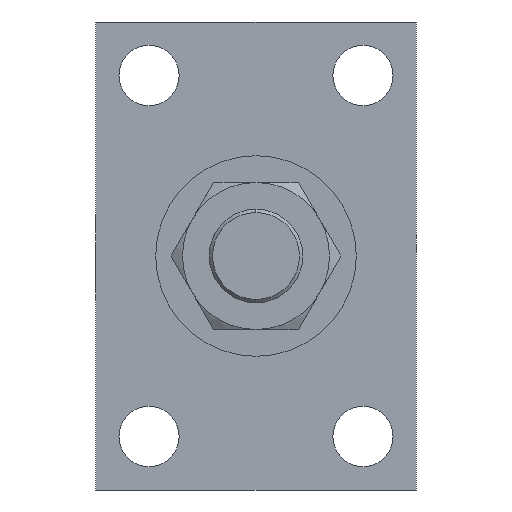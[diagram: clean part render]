
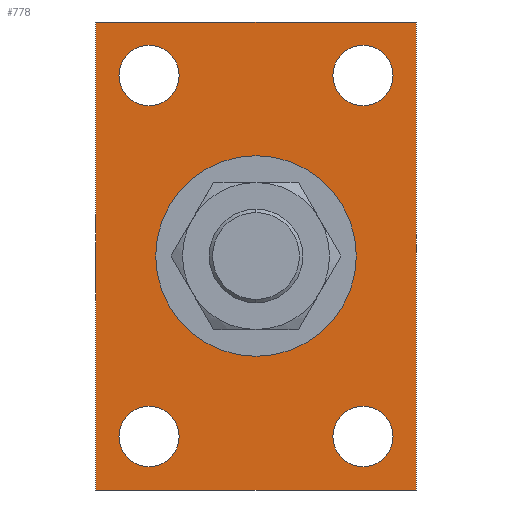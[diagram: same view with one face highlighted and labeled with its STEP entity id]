
A CAD part, left-side view. The second image highlights one B-rep face of the part: STEP entity #778.
In plain terms, the highlighted planar face has unit normal (-1, 0, 0).
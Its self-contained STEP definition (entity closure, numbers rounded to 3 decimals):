
#1 = CIRCLE ( 'NONE', #2101, 4.5 ) ;
#45 = EDGE_CURVE ( 'NONE', #2834, #2792, #2802, .T. ) ;
#47 = VERTEX_POINT ( 'NONE', #2020 ) ;
#62 = CARTESIAN_POINT ( 'NONE',  ( -37., -16., 27. ) ) ;
#89 = ORIENTED_EDGE ( 'NONE', *, *, #193, .F. ) ;
#96 = EDGE_CURVE ( 'NONE', #2880, #1566, #3024, .T. ) ;
#107 = AXIS2_PLACEMENT_3D ( 'NONE', #694, #158, #550 ) ;
#121 = CIRCLE ( 'NONE', #1545, 4.5 ) ;
#147 = ORIENTED_EDGE ( 'NONE', *, *, #796, .F. ) ;
#158 = DIRECTION ( 'NONE',  ( 1., 0., 0. ) ) ;
#187 = ORIENTED_EDGE ( 'NONE', *, *, #278, .F. ) ;
#193 = EDGE_CURVE ( 'NONE', #2003, #2469, #2749, .T. ) ;
#217 = DIRECTION ( 'NONE',  ( 0., 0., -1. ) ) ;
#227 = DIRECTION ( 'NONE',  ( 0., 0., 1. ) ) ;
#255 = EDGE_CURVE ( 'NONE', #1103, #1009, #2293, .T. ) ;
#264 = CARTESIAN_POINT ( 'NONE',  ( -37., 16., 27. ) ) ;
#278 = EDGE_CURVE ( 'NONE', #2469, #2003, #1, .T. ) ;
#299 = EDGE_CURVE ( 'NONE', #2792, #2834, #121, .T. ) ;
#310 = CIRCLE ( 'NONE', #107, 15. ) ;
#311 = VERTEX_POINT ( 'NONE', #1005 ) ;
#369 = FACE_BOUND ( 'NONE', #2487, .T. ) ;
#371 = DIRECTION ( 'NONE',  ( -1., 0., 0. ) ) ;
#372 = CARTESIAN_POINT ( 'NONE',  ( -37., 0., 0. ) ) ;
#442 = AXIS2_PLACEMENT_3D ( 'NONE', #518, #2553, #806 ) ;
#460 = FACE_OUTER_BOUND ( 'NONE', #648, .T. ) ;
#464 = DIRECTION ( 'NONE',  ( 0., 0., 1. ) ) ;
#468 = VECTOR ( 'NONE', #1630, 1000. ) ;
#502 = ORIENTED_EDGE ( 'NONE', *, *, #1863, .F. ) ;
#518 = CARTESIAN_POINT ( 'NONE',  ( -37., 0., 0. ) ) ;
#550 = DIRECTION ( 'NONE',  ( 0., 0., 1. ) ) ;
#593 = CARTESIAN_POINT ( 'NONE',  ( -37., -16., -31.5 ) ) ;
#594 = EDGE_LOOP ( 'NONE', ( #1896, #1342 ) ) ;
#602 = VECTOR ( 'NONE', #2263, 1000. ) ;
#607 = EDGE_CURVE ( 'NONE', #47, #311, #310, .T. ) ;
#616 = CIRCLE ( 'NONE', #1122, 4.5 ) ;
#648 = EDGE_LOOP ( 'NONE', ( #888, #147, #1377, #689 ) ) ;
#653 = VERTEX_POINT ( 'NONE', #701 ) ;
#668 = CARTESIAN_POINT ( 'NONE',  ( -37., -24., -35. ) ) ;
#680 = ORIENTED_EDGE ( 'NONE', *, *, #45, .F. ) ;
#689 = ORIENTED_EDGE ( 'NONE', *, *, #1801, .F. ) ;
#694 = CARTESIAN_POINT ( 'NONE',  ( -37., 0., 0. ) ) ;
#701 = CARTESIAN_POINT ( 'NONE',  ( -37., -24., -35. ) ) ;
#746 = CARTESIAN_POINT ( 'NONE',  ( -37., 16., -27. ) ) ;
#778 = ADVANCED_FACE ( 'NONE', ( #1010, #1919, #912, #2649, #460, #369 ), #1397, .T. ) ;
#796 = EDGE_CURVE ( 'NONE', #2830, #1103, #1547, .T. ) ;
#806 = DIRECTION ( 'NONE',  ( 0., 0., 1. ) ) ;
#815 = CARTESIAN_POINT ( 'NONE',  ( -37., -16., -27. ) ) ;
#820 = CARTESIAN_POINT ( 'NONE',  ( -37., -16., 27. ) ) ;
#827 = CARTESIAN_POINT ( 'NONE',  ( -37., -24., 35. ) ) ;
#861 = DIRECTION ( 'NONE',  ( -1., 0., 0. ) ) ;
#879 = CARTESIAN_POINT ( 'NONE',  ( -37., -16., -22.5 ) ) ;
#888 = ORIENTED_EDGE ( 'NONE', *, *, #255, .F. ) ;
#907 = CARTESIAN_POINT ( 'NONE',  ( -37., 24., -35. ) ) ;
#912 = FACE_BOUND ( 'NONE', #1999, .T. ) ;
#978 = DIRECTION ( 'NONE',  ( -1., 0., 0. ) ) ;
#1005 = CARTESIAN_POINT ( 'NONE',  ( -37., 0., 15. ) ) ;
#1009 = VERTEX_POINT ( 'NONE', #827 ) ;
#1010 = FACE_BOUND ( 'NONE', #1045, .T. ) ;
#1011 = DIRECTION ( 'NONE',  ( 0., 0., 1. ) ) ;
#1045 = EDGE_LOOP ( 'NONE', ( #187, #89 ) ) ;
#1049 = CARTESIAN_POINT ( 'NONE',  ( -37., 16., 22.5 ) ) ;
#1092 = AXIS2_PLACEMENT_3D ( 'NONE', #820, #2769, #1137 ) ;
#1102 = VECTOR ( 'NONE', #1826, 1000. ) ;
#1103 = VERTEX_POINT ( 'NONE', #1512 ) ;
#1109 = AXIS2_PLACEMENT_3D ( 'NONE', #1676, #371, #1862 ) ;
#1122 = AXIS2_PLACEMENT_3D ( 'NONE', #2613, #1316, #3009 ) ;
#1136 = CIRCLE ( 'NONE', #2398, 4.5 ) ;
#1137 = DIRECTION ( 'NONE',  ( 0., 0., 1. ) ) ;
#1190 = ORIENTED_EDGE ( 'NONE', *, *, #607, .T. ) ;
#1249 = CARTESIAN_POINT ( 'NONE',  ( -37., -24., 35. ) ) ;
#1290 = EDGE_CURVE ( 'NONE', #1566, #2880, #616, .T. ) ;
#1304 = EDGE_CURVE ( 'NONE', #1380, #2051, #2153, .T. ) ;
#1310 = VECTOR ( 'NONE', #217, 1000. ) ;
#1316 = DIRECTION ( 'NONE',  ( -1., 0., 0. ) ) ;
#1342 = ORIENTED_EDGE ( 'NONE', *, *, #96, .F. ) ;
#1377 = ORIENTED_EDGE ( 'NONE', *, *, #2639, .F. ) ;
#1380 = VERTEX_POINT ( 'NONE', #1883 ) ;
#1397 = PLANE ( 'NONE',  #2783 ) ;
#1495 = DIRECTION ( 'NONE',  ( -1., 0., 0. ) ) ;
#1512 = CARTESIAN_POINT ( 'NONE',  ( -37., 24., 35. ) ) ;
#1545 = AXIS2_PLACEMENT_3D ( 'NONE', #815, #978, #1887 ) ;
#1547 = LINE ( 'NONE', #2848, #602 ) ;
#1566 = VERTEX_POINT ( 'NONE', #1611 ) ;
#1611 = CARTESIAN_POINT ( 'NONE',  ( -37., 16., 31.5 ) ) ;
#1630 = DIRECTION ( 'NONE',  ( 0., -1., 0. ) ) ;
#1657 = CARTESIAN_POINT ( 'NONE',  ( -37., -16., 22.5 ) ) ;
#1671 = ORIENTED_EDGE ( 'NONE', *, *, #2218, .T. ) ;
#1676 = CARTESIAN_POINT ( 'NONE',  ( -37., -16., -27. ) ) ;
#1690 = CARTESIAN_POINT ( 'NONE',  ( -37., 16., -31.5 ) ) ;
#1767 = DIRECTION ( 'NONE',  ( -1., 0., 0. ) ) ;
#1772 = DIRECTION ( 'NONE',  ( 0., 0., 1. ) ) ;
#1801 = EDGE_CURVE ( 'NONE', #1009, #653, #2120, .T. ) ;
#1826 = DIRECTION ( 'NONE',  ( 0., 1., 0. ) ) ;
#1862 = DIRECTION ( 'NONE',  ( 0., 0., 1. ) ) ;
#1863 = EDGE_CURVE ( 'NONE', #2051, #1380, #1136, .T. ) ;
#1883 = CARTESIAN_POINT ( 'NONE',  ( -37., -16., 31.5 ) ) ;
#1887 = DIRECTION ( 'NONE',  ( 0., 0., 1. ) ) ;
#1896 = ORIENTED_EDGE ( 'NONE', *, *, #1290, .F. ) ;
#1919 = FACE_BOUND ( 'NONE', #594, .T. ) ;
#1929 = CARTESIAN_POINT ( 'NONE',  ( -37., -24., 35. ) ) ;
#1953 = ORIENTED_EDGE ( 'NONE', *, *, #1304, .F. ) ;
#1999 = EDGE_LOOP ( 'NONE', ( #2428, #680 ) ) ;
#2003 = VERTEX_POINT ( 'NONE', #1690 ) ;
#2020 = CARTESIAN_POINT ( 'NONE',  ( -37., 0., -15. ) ) ;
#2051 = VERTEX_POINT ( 'NONE', #1657 ) ;
#2101 = AXIS2_PLACEMENT_3D ( 'NONE', #746, #2315, #227 ) ;
#2120 = LINE ( 'NONE', #1929, #1310 ) ;
#2153 = CIRCLE ( 'NONE', #1092, 4.5 ) ;
#2218 = EDGE_CURVE ( 'NONE', #311, #47, #2268, .T. ) ;
#2263 = DIRECTION ( 'NONE',  ( 0., 0., 1. ) ) ;
#2268 = CIRCLE ( 'NONE', #442, 15. ) ;
#2293 = LINE ( 'NONE', #1249, #468 ) ;
#2312 = CARTESIAN_POINT ( 'NONE',  ( -37., 16., -22.5 ) ) ;
#2315 = DIRECTION ( 'NONE',  ( -1., 0., 0. ) ) ;
#2361 = LINE ( 'NONE', #668, #1102 ) ;
#2398 = AXIS2_PLACEMENT_3D ( 'NONE', #62, #861, #1772 ) ;
#2428 = ORIENTED_EDGE ( 'NONE', *, *, #299, .F. ) ;
#2443 = DIRECTION ( 'NONE',  ( -1., 0., 0. ) ) ;
#2469 = VERTEX_POINT ( 'NONE', #2312 ) ;
#2487 = EDGE_LOOP ( 'NONE', ( #1671, #1190 ) ) ;
#2553 = DIRECTION ( 'NONE',  ( 1., 0., 0. ) ) ;
#2613 = CARTESIAN_POINT ( 'NONE',  ( -37., 16., 27. ) ) ;
#2619 = AXIS2_PLACEMENT_3D ( 'NONE', #2650, #1495, #2747 ) ;
#2635 = EDGE_LOOP ( 'NONE', ( #1953, #502 ) ) ;
#2639 = EDGE_CURVE ( 'NONE', #653, #2830, #2361, .T. ) ;
#2649 = FACE_BOUND ( 'NONE', #2635, .T. ) ;
#2650 = CARTESIAN_POINT ( 'NONE',  ( -37., 16., -27. ) ) ;
#2747 = DIRECTION ( 'NONE',  ( 0., 0., 1. ) ) ;
#2749 = CIRCLE ( 'NONE', #2619, 4.5 ) ;
#2769 = DIRECTION ( 'NONE',  ( -1., 0., 0. ) ) ;
#2783 = AXIS2_PLACEMENT_3D ( 'NONE', #372, #2443, #1011 ) ;
#2792 = VERTEX_POINT ( 'NONE', #879 ) ;
#2802 = CIRCLE ( 'NONE', #1109, 4.5 ) ;
#2830 = VERTEX_POINT ( 'NONE', #907 ) ;
#2834 = VERTEX_POINT ( 'NONE', #593 ) ;
#2848 = CARTESIAN_POINT ( 'NONE',  ( -37., 24., 35. ) ) ;
#2880 = VERTEX_POINT ( 'NONE', #1049 ) ;
#2901 = AXIS2_PLACEMENT_3D ( 'NONE', #264, #1767, #464 ) ;
#3009 = DIRECTION ( 'NONE',  ( 0., 0., 1. ) ) ;
#3024 = CIRCLE ( 'NONE', #2901, 4.5 ) ;
